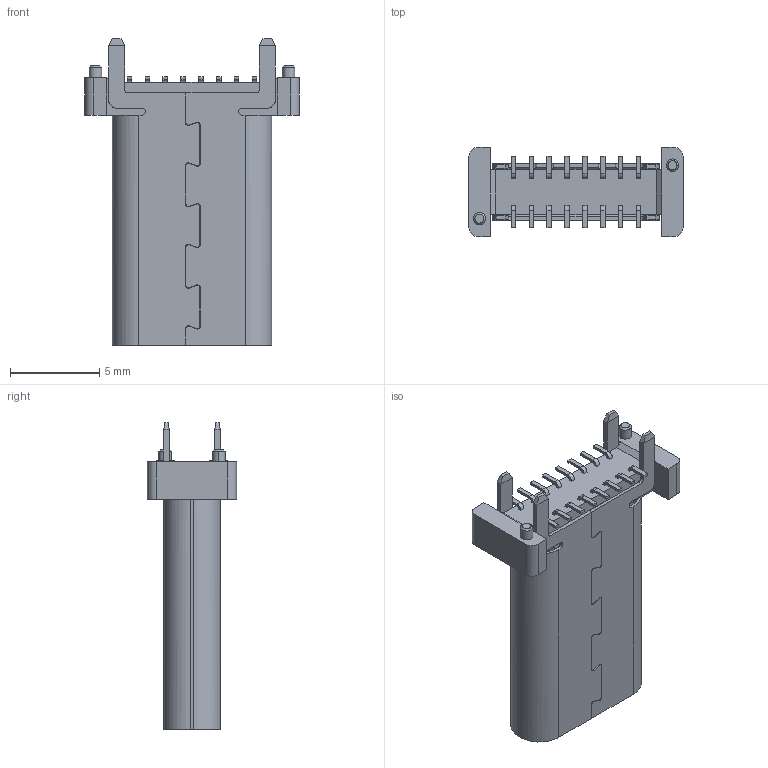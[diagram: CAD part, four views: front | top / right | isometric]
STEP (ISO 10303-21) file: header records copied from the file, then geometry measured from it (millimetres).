
FILE_DESCRIPTION (( 'STEP AP203' ), '1' );
FILE_NAME ('U5106-16PN15.0L.STEP', '2026-09-21T06:20:54', ( '' ), ( '' ), 'SwSTEP 2.0', 'SolidWorks 2024', '' );
FILE_SCHEMA (( 'CONFIG_CONTROL_DESIGN' ));
Length unit declared in the file: millimetre
Products named in the file (1): U5106-16PN15.0L
Bounding box: 12 x 5 x 17.2 mm (x, y, z)
Volume: 334.5 mm3; surface area: 1019.1 mm2
Topology: 1 solids, 3 shells, 631 faces, 1690 edges, 1098 vertices
Faces by surface type: plane 433, cylinder 141, cone 32, bspline 25
Entity records: 21045 total; most frequent: CARTESIAN_POINT 5223, ORIENTED_EDGE 3380, DIRECTION 3102, EDGE_CURVE 1690, LINE 1284, VECTOR 1284, VERTEX_POINT 1098, AXIS2_PLACEMENT_3D 909
